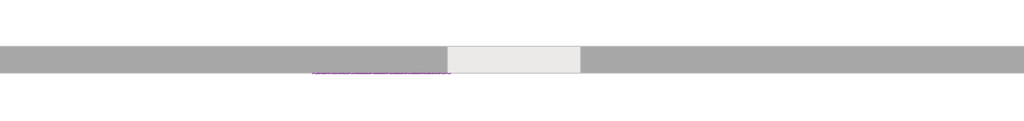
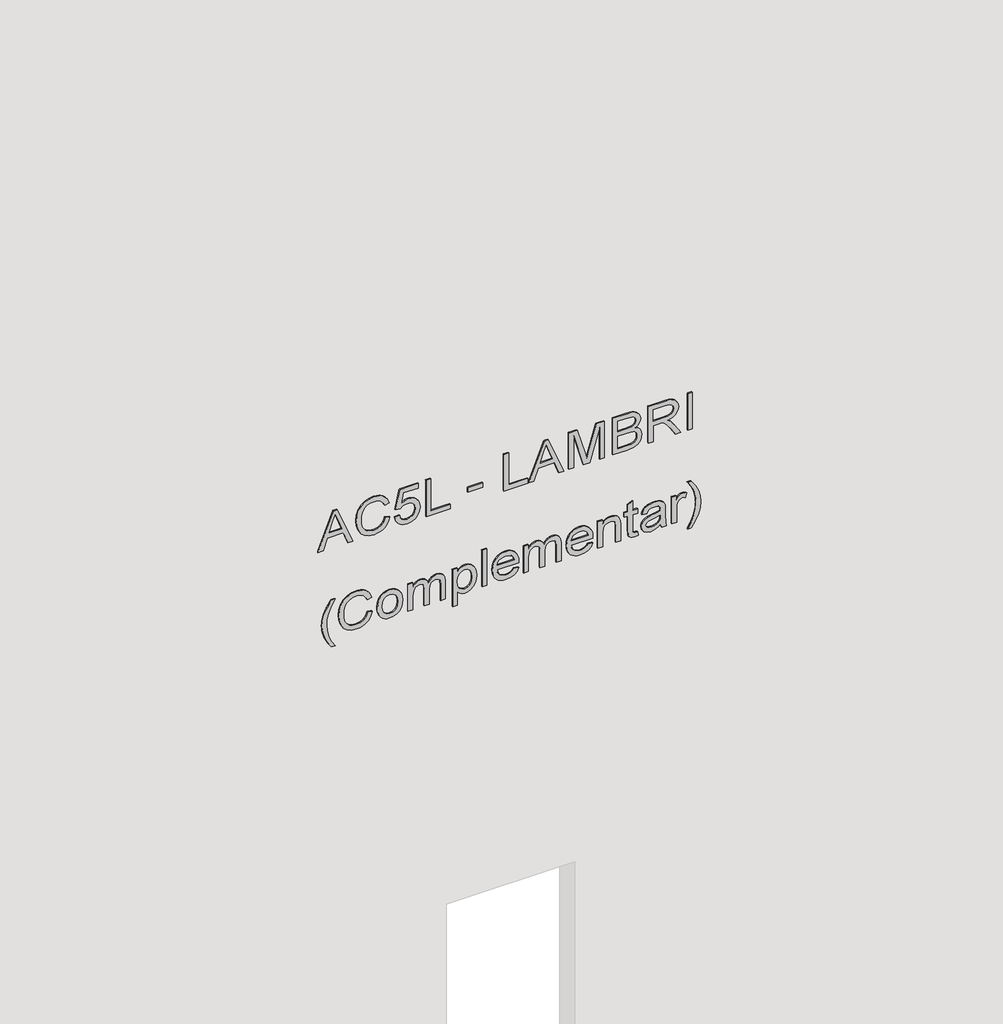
# One storey, part 11 of 11: 1 proxy.
"""IFC4 building model written with IfcOpenShell, lengths in millimetres."""

from ifc_helpers import new_model, si_unit, frame, origin, place, context, project, spatial, polyline, outline, extrude, element, save

model = new_model("IFC4")

# Units and contexts
model_context = context("Model", 3, world=origin())
ifc_project = project(units=[si_unit("LENGTHUNIT", "METRE", prefix="MILLI")], contexts=[model_context])

# Site, building, storey
site = spatial("IfcSite", under=ifc_project)
building = spatial("IfcBuilding", under=site)
storey = spatial("IfcBuildingStorey", under=building, Name="01 - Marelli - Planta Baixa - Painéis Lambri", Elevation=0.0)

# Proxy
placement = place(None, origin())
element("IfcBuildingElementProxy", 1, Name="300mm Arial", ObjectType="300mm Arial", at=placement, inside=storey, context=model_context, shape_type="SweptSolid", body=[
    extrude(outline(polyline([(5965.9244535, 67363.6853623), (5965.9244535, 67403.4901942), (6060.1022443, 67437.923949), (6060.1022443, 67562.0473341), (5965.9244535, 67596.5546653), (5965.9244535, 67636.3594972), (6267.293384, 67516.0620847), (6267.293384, 67483.9827748), (5965.9244535, 67363.6853623)]), holes=[polyline([(6097.7733606, 67451.756312), (6178.3395176, 67481.260448), (6229.6222677, 67500.0224297), (6171.8647944, 67521.1388563), (6097.7733606, 67548.2885475), (6097.7733606, 67451.756312)])]), frame((0.0, 8778.3159498, 0.0), z_axis=(0.0, 1.0, 0.0), x_axis=(0.0, 0.0, 1.0)), (0.0, 0.0, 1.0), 10.0),
    extrude(outline(polyline([(6073.0516905, 67888.5058167), (6040.7884396, 67876.3197256), (6017.5750857, 67856.5368713), (6003.5587816, 67830.3344762), (5998.8866803, 67798.8897626), (6002.3171799, 67771.9148153), (6012.6086787, 67746.9080367), (6029.8347531, 67726.0491276), (6054.0689796, 67711.5177888), (6084.1617268, 67702.9921235), (6118.9633635, 67700.1502351), (6147.3822477, 67702.5506651), (6174.9550032, 67709.7519552), (6199.3455795, 67722.8761454), (6218.2179258, 67743.0452758), (6230.3028494, 67769.6247499), (6234.3311572, 67801.9799714), (6230.6983225, 67830.0493676), (6219.7998184, 67852.8948395), (6200.9550632, 67870.7371163), (6173.4834752, 67883.7969271), (6182.4597959, 67921.4680434), (6220.278065, 67904.8305802), (6235.6003501, 67893.0284659), (6248.5314022, 67878.9040966), (6258.7999084, 67862.7241866), (6266.1345557, 67844.7554504), (6272.0022735, 67803.4514994), (6267.4681279, 67765.5964421), (6253.8656912, 67731.0523227), (6231.526057, 67701.9252658), (6200.7803193, 67680.3213956), (6162.8332915, 67666.939688), (6118.8897871, 67662.4791188), (6077.2271512, 67666.4246532), (6038.3236302, 67678.2612564), (6005.2326447, 67697.6486376), (5981.0076153, 67724.2465058), (5966.1635768, 67758.946975), (5961.215564, 67802.642159), (5962.8503396, 67825.0645666), (5967.7546665, 67845.6843524), (5975.9285445, 67864.5015165), (5987.3719739, 67881.5160587), (6001.9286046, 67896.3922869), (6019.4420868, 67908.7945087), (6039.9124206, 67918.722724), (6063.3396059, 67926.176933), (6073.0516905, 67888.5058167)])), frame((0.0, 8778.3159498, 0.0), z_axis=(0.0, 1.0, 0.0), x_axis=(0.0, 0.0, 1.0)), (0.0, 0.0, 1.0), 10.0),
    extrude(outline(polyline([(6045.9755757, 67963.8480493), (6011.4222593, 67973.0359021), (5996.9805917, 67981.7616032), (5984.4289179, 67993.2418207), (5974.2730756, 68007.0396948), (5967.0189025, 68022.7183655), (5961.215564, 68059.7180972), (5963.4734397, 68083.2073626), (5970.247067, 68104.0846658), (5981.5364457, 68122.3500069), (5997.3415759, 68138.0033858), (6012.7742256, 68148.3362713), (6029.5680387, 68155.7169039), (6067.239155, 68161.6214099), (6087.5002559, 68159.9820357), (6105.8299763, 68155.0639133), (6122.2283162, 68146.8670426), (6136.6952757, 68135.3914236), (6148.5088863, 68121.5291702), (6156.9471795, 68106.1723962), (6162.0101555, 68089.3211015), (6163.6978141, 68070.9752863), (6158.2531606, 68042.7771313), (6141.9192, 68015.8665634), (6224.9133781, 68031.9797948), (6224.9133781, 68147.4947413), (6262.5844944, 68147.4947413), (6262.5844944, 68001.5191656), (6107.1911397, 67968.5569388), (6102.4822501, 68006.2280551), (6119.4783983, 68027.3812698), (6124.389623, 68042.1793231), (6126.0266978, 68060.4538612), (6121.9248136, 68088.3485135), (6109.6191609, 68108.168156), (6090.2317797, 68120.0047592), (6064.8847102, 68123.9502936), (6037.9649452, 68119.7380447), (6016.9496863, 68107.1012982), (6003.4024318, 68086.8677885), (5998.8866803, 68059.86525), (6002.1332389, 68037.6635716), (6011.8729147, 68020.5018765), (6028.0689196, 68008.4353471), (6050.6844652, 68001.5191656), (6045.9755757, 67963.8480493)])), frame((0.0, 8778.3159498, 0.0), z_axis=(0.0, 1.0, 0.0), x_axis=(0.0, 0.0, 1.0)), (0.0, 0.0, 1.0), 10.0),
    extrude(outline(polyline([(5965.9244535, 68208.7103053), (5965.9244535, 68397.0658868), (6003.5955698, 68397.0658868), (6003.5955698, 68246.3814216), (6267.293384, 68246.3814216), (6267.293384, 68208.7103053), (5965.9244535, 68208.7103053)])), frame((0.0, 8778.3159498, 0.0), z_axis=(0.0, 1.0, 0.0), x_axis=(0.0, 0.0, 1.0)), (0.0, 0.0, 1.0), 10.0),
    extrude(outline(polyline([(68651.3459219, 8778.3159498), (68533.6236834, 8778.3159498), (68533.6236834, 8788.3159498), (68651.3459219, 8788.3159498), (68651.3459219, 8778.3159498)])), frame((0.0, 0.0, 6055.3933548), z_axis=(0.0, 0.0, 1.0), x_axis=(1.0, 0.0, 0.0)), (0.0, 0.0, 1.0), 37.6711163),
    extrude(outline(polyline([(5965.9244535, 68816.1570557), (5965.9244535, 69004.5126372), (6003.5955698, 69004.5126372), (6003.5955698, 68853.828172), (6267.293384, 68853.828172), (6267.293384, 68816.1570557), (5965.9244535, 68816.1570557)])), frame((0.0, 8778.3159498, 0.0), z_axis=(0.0, 1.0, 0.0), x_axis=(0.0, 0.0, 1.0)), (0.0, 0.0, 1.0), 10.0),
    extrude(outline(polyline([(5965.9244535, 69011.7967007), (5965.9244535, 69051.6015326), (6060.1022443, 69086.0352874), (6060.1022443, 69210.1586725), (5965.9244535, 69244.6660037), (5965.9244535, 69284.4708356), (6267.293384, 69164.1734231), (6267.293384, 69132.0941132), (5965.9244535, 69011.7967007)]), holes=[polyline([(6097.7733606, 69099.8676504), (6178.3395176, 69129.3717864), (6229.6222677, 69148.1337681), (6171.8647944, 69169.2501947), (6097.7733606, 69196.3998859), (6097.7733606, 69099.8676504)])]), frame((0.0, 8778.3159498, 0.0), z_axis=(0.0, 1.0, 0.0), x_axis=(0.0, 0.0, 1.0)), (0.0, 0.0, 1.0), 10.0),
    extrude(outline(polyline([(5965.9244535, 69324.7171258), (5965.9244535, 69362.3882421), (6229.6222677, 69362.3882421), (5965.9244535, 69438.0983567), (5965.9244535, 69489.1603777), (6229.6222677, 69564.8704923), (5965.9244535, 69564.8704923), (5965.9244535, 69602.5416086), (6267.293384, 69602.5416086), (6267.293384, 69537.720801), (6058.5571399, 69477.0938482), (6010.5117514, 69463.6293672), (6054.87832, 69451.1949558), (6267.293384, 69389.5379334), (6267.293384, 69324.7171258), (5965.9244535, 69324.7171258)])), frame((0.0, 8778.3159498, 0.0), z_axis=(0.0, 1.0, 0.0), x_axis=(0.0, 0.0, 1.0)), (0.0, 0.0, 1.0), 10.0),
    extrude(outline(polyline([(5965.9244535, 69668.4660621), (5965.9244535, 69782.583057), (5971.1115897, 69830.885963), (5977.5311305, 69848.9213778), (5986.4154807, 69863.6642488), (5998.6843452, 69875.7031871), (6015.2574291, 69885.6268039), (6034.7459778, 69892.2762709), (6055.7612368, 69894.49276), (6080.9795475, 69891.2462013), (6102.6294029, 69881.5065255), (6119.5887629, 69865.733585), (6130.7355874, 69844.3872322), (6142.4802201, 69862.2571001), (6157.407032, 69874.958226), (6174.4675596, 69882.5457922), (6192.613339, 69885.0749809), (6212.3318139, 69882.0675456), (6231.1673721, 69873.0452396), (6247.1794359, 69858.7162359), (6258.4274279, 69839.7887073), (6265.076895, 69815.0946283), (6267.293384, 69783.4659738), (6267.293384, 69668.4660621), (5965.9244535, 69668.4660621)]), holes=[polyline([(6144.862256, 69706.1371784), (6229.6222677, 69706.1371784), (6229.6222677, 69769.7071872), (6225.6859303, 69818.1204578), (6220.084927, 69830.6100515), (6211.1545915, 69839.8254955), (6199.7134615, 69845.5092723), (6186.5800742, 69847.4038646), (6173.0512139, 69845.3713166), (6162.0423452, 69839.2736725), (6153.6822268, 69829.1661147), (6148.0996175, 69815.1038254), (6144.862256, 69774.9311115), (6144.862256, 69706.1371784)]), polyline([(6003.5955698, 69706.1371784), (6107.1911397, 69706.1371784), (6107.1911397, 69779.7135775), (6105.9311438, 69806.541372), (6102.1511563, 69826.2506499), (6095.262566, 69840.1657863), (6084.6767616, 69849.6111565), (6071.1387042, 69855.0190219), (6055.3933548, 69856.8216436), (6041.8369032, 69855.2857363), (6030.0094971, 69850.6780143), (6013.2708663, 69835.0062413), (6005.0670978, 69811.351429), (6003.5955698, 69783.3923974), (6003.5955698, 69706.1371784)])]), frame((0.0, 8778.3159498, 0.0), z_axis=(0.0, 1.0, 0.0), x_axis=(0.0, 0.0, 1.0)), (0.0, 0.0, 1.0), 10.0),
    extrude(outline(polyline([(5965.9244535, 69946.2905449), (5965.9244535, 69983.9616612), (6097.7733606, 69983.9616612), (6097.7733606, 70029.4318758), (6096.4489854, 70051.2840663), (6089.2752865, 70069.1999195), (6069.7407526, 70089.1023354), (6028.3908163, 70117.429249), (5965.9244535, 70156.6454697), (5965.9244535, 70200.4234271), (6047.5942565, 70150.1707466), (6086.3690188, 70119.636541), (6102.4822501, 70098.2258089), (6112.4702463, 70135.3359051), (6120.4854753, 70149.7177919), (6130.5148582, 70161.3175711), (6155.1261637, 70176.6306591), (6184.8142407, 70181.7350218), (6208.6805851, 70178.6540101), (6230.3948199, 70169.410975), (6247.9060028, 70155.0083948), (6259.1631919, 70136.4487482), (6265.260836, 70111.0556935), (6267.293384, 70076.1528892), (6267.293384, 69946.2905449), (5965.9244535, 69946.2905449)]), holes=[polyline([(6135.4444769, 69983.9616612), (6229.6222677, 69983.9616612), (6229.6222677, 70077.77157), (6226.366512, 70107.5792086), (6216.599245, 70128.1346151), (6201.7919947, 70140.0815829), (6183.4162891, 70144.0639055), (6170.1081579, 70141.9761752), (6157.8484904, 70135.7129842), (6147.7133415, 70125.4306824), (6140.7787658, 70111.2856197), (6136.7780491, 70092.4960468), (6135.4444769, 70068.2802145), (6135.4444769, 69983.9616612)])]), frame((0.0, 8778.3159498, 0.0), z_axis=(0.0, 1.0, 0.0), x_axis=(0.0, 0.0, 1.0)), (0.0, 0.0, 1.0), 10.0),
    extrude(outline(polyline([(70290.0394812, 8778.3159498), (70252.3683649, 8778.3159498), (70252.3683649, 8788.3159498), (70290.0394812, 8788.3159498), (70290.0394812, 8778.3159498)])), frame((0.0, 0.0, 5965.9244535), z_axis=(0.0, 0.0, 1.0), x_axis=(1.0, 0.0, 0.0)), (0.0, 0.0, 1.0), 301.3689304),
    extrude(outline(polyline([(5149.3155348, 67469.4146478), (5149.3155348, 67497.667985), (5197.5540614, 67468.8260366), (5245.8109821, 67448.2246448), (5294.0862969, 67435.8638098), (5342.3800058, 67431.7435314), (5380.2534572, 67434.1163703), (5417.9429677, 67441.2348869), (5475.7740173, 67462.4248898), (5535.4444769, 67497.667985), (5535.4444769, 67469.4146478), (5484.934279, 67434.7233756), (5434.2033518, 67410.4063757), (5389.4137189, 67398.1559053), (5342.600735, 67394.0724151), (5289.2210575, 67399.5354628), (5237.68079, 67415.9246057), (5190.2791949, 67440.2232114), (5149.3155348, 67469.4146478)])), frame((0.0, 8778.3159498, 0.0), z_axis=(0.0, 1.0, 0.0), x_axis=(0.0, 0.0, 1.0)), (0.0, 0.0, 1.0), 10.0),
    extrude(outline(polyline([(5341.2027835, 67751.94802), (5308.9395325, 67739.761929), (5285.7261786, 67719.9790747), (5271.7098746, 67693.7766796), (5267.0377732, 67662.331966), (5270.4682728, 67635.3570187), (5280.7597717, 67610.3502401), (5297.9858461, 67589.491331), (5322.2200725, 67574.9599922), (5352.3128197, 67566.4343269), (5387.1144565, 67563.5924385), (5415.5333406, 67565.9928685), (5443.1060961, 67573.1941586), (5467.4966724, 67586.3183488), (5486.3690188, 67606.4874792), (5498.4539423, 67633.0669533), (5502.4822501, 67665.4221748), (5498.8494154, 67693.491571), (5487.9509113, 67716.3370429), (5469.1061561, 67734.1793197), (5441.6345681, 67747.2391305), (5450.6108888, 67784.9102468), (5488.4291579, 67768.2727836), (5503.751443, 67756.4706693), (5516.6824952, 67742.3463), (5526.9510013, 67726.16639), (5534.2856486, 67708.1976538), (5540.1533665, 67666.8937028), (5535.6192209, 67629.0386455), (5522.0167841, 67594.4945261), (5499.6771499, 67565.3674691), (5468.9314122, 67543.763599), (5430.9843844, 67530.3818914), (5387.0408801, 67525.9213222), (5345.3782441, 67529.8668566), (5306.4747231, 67541.7034598), (5273.3837376, 67561.0908409), (5249.1587083, 67587.6887092), (5234.3146698, 67622.3891784), (5229.3666569, 67666.0843624), (5231.0014325, 67688.50677), (5235.9057594, 67709.1265558), (5244.0796375, 67727.9437199), (5255.5230668, 67744.9582621), (5270.0796975, 67759.8344903), (5287.5931797, 67772.2367121), (5308.0635135, 67782.1649274), (5331.4906988, 67789.6191364), (5341.2027835, 67751.94802)])), frame((0.0, 8778.3159498, 0.0), z_axis=(0.0, 1.0, 0.0), x_axis=(0.0, 0.0, 1.0)), (0.0, 0.0, 1.0), 10.0),
    extrude(outline(polyline([(5344.7344506, 67827.2902527), (5318.4124939, 67828.9986047), (5295.3646869, 67834.1236607), (5275.5910296, 67842.6654208), (5259.0915221, 67854.6238849), (5246.0868936, 67869.350661), (5236.7978732, 67886.1973571), (5231.224461, 67905.1639733), (5229.3666569, 67926.2505094), (5232.7419742, 67952.8391806), (5242.8679261, 67977.2757421), (5259.1007192, 67997.8495427), (5280.7965599, 68012.849931), (5309.767267, 68022.0101927), (5347.8246594, 68025.0636133), (5372.7049786, 68023.3368672), (5394.7388108, 68018.1566288), (5413.9261561, 68009.5228982), (5430.2670145, 67997.4356754), (5443.3199275, 67982.6261259), (5452.6434368, 67965.825415), (5458.2375424, 67947.0335428), (5460.1022443, 67926.2505094), (5458.5709355, 67907.4241483), (5453.9770091, 67890.0877092), (5446.3204651, 67874.2411923), (5435.6013034, 67859.8845974), (5418.830483, 67845.6245716), (5398.095734, 67835.4388389), (5373.3970566, 67829.3273992), (5344.7344506, 67827.2902527)]), holes=[polyline([(5344.808027, 67864.961369), (5378.8830968, 67869.3207706), (5403.1173232, 67882.3989755), (5417.6026768, 67902.0806623), (5422.431128, 67926.2505094), (5417.5842827, 67950.1720361), (5403.0437468, 67969.8445258), (5379.0854319, 67983.0055042), (5345.9852494, 67987.392497), (5311.1468245, 67983.0330953), (5286.535519, 67969.9548904), (5271.9122097, 67950.3099918), (5267.0377732, 67926.2505094), (5271.8846185, 67902.0806623), (5286.4251544, 67882.3989755), (5310.7145631, 67869.3207706), (5344.808027, 67864.961369)])]), frame((0.0, 8778.3159498, 0.0), z_axis=(0.0, 1.0, 0.0), x_axis=(0.0, 0.0, 1.0)), (0.0, 0.0, 1.0), 10.0),
    extrude(outline(polyline([(5234.0755465, 68067.4436191), (5234.0755465, 68105.1147354), (5345.6909438, 68105.1147354), (5371.6082304, 68106.5494752), (5390.6461236, 68110.8536945), (5404.368122, 68118.3584872), (5414.3377241, 68129.3949471), (5420.407777, 68142.7674576), (5422.431128, 68157.2804023), (5419.3961015, 68174.359324), (5410.2910222, 68185.8648334), (5395.0974958, 68192.4039358), (5373.7971282, 68194.5836366), (5234.0755465, 68194.5836366), (5234.0755465, 68232.2547529), (5359.008272, 68232.2547529), (5387.7214617, 68235.94277), (5407.3479662, 68247.006821), (5418.6603375, 68263.6442842), (5422.431128, 68284.0525379), (5420.9596, 68295.6132296), (5416.5450161, 68305.5736346), (5409.7300021, 68313.3175506), (5401.0571841, 68318.2287752), (5369.6032735, 68321.7236542), (5234.0755465, 68321.7236542), (5234.0755465, 68359.3947705), (5385.7900813, 68359.3947705), (5418.7615051, 68355.0813541), (5441.8920855, 68342.1411049), (5455.5497046, 68321.1994223), (5460.1022443, 68292.8817058), (5457.366122, 68273.3563689), (5449.1577549, 68255.7624124), (5435.4771432, 68240.0998365), (5416.3242869, 68226.368641), (5434.7643719, 68218.1648725), (5448.5875379, 68205.6200965), (5457.2235677, 68188.8262834), (5460.1022443, 68167.8754038), (5457.27875, 68148.3224757), (5448.808267, 68131.0136279), (5435.702471, 68116.4455009), (5418.9730372, 68105.1147354), (5455.3933548, 68105.1147354), (5455.3933548, 68067.4436191), (5234.0755465, 68067.4436191)])), frame((0.0, 8778.3159498, 0.0), z_axis=(0.0, 1.0, 0.0), x_axis=(0.0, 0.0, 1.0)), (0.0, 0.0, 1.0), 10.0),
    extrude(outline(polyline([(5149.3155348, 68415.9014449), (5149.3155348, 68453.5725612), (5263.5061061, 68453.5725612), (5249.9956398, 68464.213548), (5239.0419534, 68477.4481027), (5231.785481, 68492.9083436), (5229.3666569, 68510.2263885), (5232.9810975, 68534.6445559), (5243.8244193, 68557.8671069), (5261.4459669, 68577.806311), (5285.3950848, 68592.374438), (5314.2094421, 68601.2863794), (5346.4267078, 68604.2570265), (5376.7217901, 68601.6266702), (5404.4784866, 68593.7356014), (5427.9861461, 68580.6757906), (5445.5341173, 68562.5392082), (5456.4602125, 68540.2639534), (5460.1022443, 68514.7881252), (5457.4994792, 68495.6582615), (5449.6911838, 68479.6186065), (5436.6773583, 68465.8598199), (5418.4580024, 68453.5725612), (5455.3933548, 68453.5725612), (5455.3933548, 68415.9014449), (5149.3155348, 68415.9014449)]), holes=[polyline([(5342.968617, 68453.5725612), (5377.1356573, 68457.9227658), (5402.0872537, 68470.9733796), (5417.3451594, 68489.670982), (5422.431128, 68510.9621525), (5417.6486621, 68532.1705495), (5403.3012642, 68550.1783732), (5379.3521464, 68562.4840259), (5345.7645202, 68566.5859102), (5310.7237602, 68562.3828584), (5286.2412134, 68549.773703), (5271.8386333, 68531.2784357), (5267.0377732, 68509.4170481), (5271.6730864, 68487.9051484), (5285.5790258, 68469.8697336), (5309.1970499, 68457.6468543), (5342.968617, 68453.5725612)])]), frame((0.0, 8778.3159498, 0.0), z_axis=(0.0, 1.0, 0.0), x_axis=(0.0, 0.0, 1.0)), (0.0, 0.0, 1.0), 10.0),
    extrude(outline(polyline([(68684.3081486, 8778.3159498), (68646.6370323, 8778.3159498), (68646.6370323, 8788.3159498), (68684.3081486, 8788.3159498), (68684.3081486, 8778.3159498)])), frame((0.0, 0.0, 5234.0755465), z_axis=(0.0, 0.0, 1.0), x_axis=(1.0, 0.0, 0.0)), (0.0, 0.0, 1.0), 301.3689304),
    extrude(outline(polyline([(5300.0, 68895.7667195), (5285.1191733, 68885.2085062), (5274.9104479, 68871.4865078), (5269.0059419, 68854.6007242), (5267.0377732, 68834.5511555), (5271.2868103, 68807.8889079), (5284.0339214, 68786.0275203), (5304.7640718, 68770.8799791), (5332.9622268, 68764.3592708), (5332.9622268, 68933.658565), (5343.1157698, 68933.8792942), (5369.3687487, 68932.0927672), (5392.5039277, 68926.7331864), (5412.5213067, 68917.8005517), (5429.4208859, 68905.2948631), (5442.8439802, 68889.9748773), (5452.4319047, 68872.5993508), (5458.1846594, 68853.1682837), (5460.1022443, 68831.6816759), (5458.1800609, 68809.4799975), (5452.4135106, 68789.4488228), (5442.8025935, 68771.588152), (5429.3473095, 68755.8979849), (5412.4109422, 68743.1186841), (5392.3567749, 68733.9906121), (5369.1848077, 68728.5137689), (5342.8950406, 68726.6881545), (5317.467497, 68728.4953748), (5295.0427901, 68733.9170357), (5275.62092, 68742.9531372), (5259.2018867, 68755.6036793), (5246.1489737, 68771.3352331), (5236.8254644, 68789.6143697), (5231.2313588, 68810.4410892), (5229.3666569, 68833.8153915), (5233.6892704, 68869.4723538), (5246.6571107, 68898.1579524), (5267.4608375, 68919.3939406), (5295.2911105, 68932.7020718), (5300.0, 68895.7667195)]), holes=[polyline([(5370.6333431, 68764.3592708), (5391.8693312, 68770.5488853), (5408.3412476, 68785.1446035), (5418.9086579, 68806.1414684), (5422.431128, 68831.5345231), (5418.0165441, 68859.1624609), (5404.7727922, 68881.125016), (5390.535759, 68891.1130122), (5370.6333431, 68896.2081778), (5370.6333431, 68764.3592708)])]), frame((0.0, 8778.3159498, 0.0), z_axis=(0.0, 1.0, 0.0), x_axis=(0.0, 0.0, 1.0)), (0.0, 0.0, 1.0), 10.0),
    extrude(outline(polyline([(5234.0755465, 68971.5504105), (5234.0755465, 69009.2215268), (5345.6909438, 69009.2215268), (5371.6082304, 69010.6562665), (5390.6461236, 69014.9604859), (5404.368122, 69022.4652786), (5414.3377241, 69033.5017384), (5420.407777, 69046.874249), (5422.431128, 69061.3871937), (5419.3961015, 69078.4661153), (5410.2910222, 69089.9716247), (5395.0974958, 69096.5107272), (5373.7971282, 69098.690428), (5234.0755465, 69098.690428), (5234.0755465, 69136.3615443), (5359.008272, 69136.3615443), (5387.7214617, 69140.0495613), (5407.3479662, 69151.1136123), (5418.6603375, 69167.7510755), (5422.431128, 69188.1593292), (5420.9596, 69199.7200209), (5416.5450161, 69209.6804259), (5409.7300021, 69217.4243419), (5401.0571841, 69222.3355666), (5369.6032735, 69225.8304455), (5234.0755465, 69225.8304455), (5234.0755465, 69263.5015618), (5385.7900813, 69263.5015618), (5418.7615051, 69259.1881454), (5441.8920855, 69246.2478963), (5455.5497046, 69225.3062137), (5460.1022443, 69196.9884971), (5457.366122, 69177.4631602), (5449.1577549, 69159.8692038), (5435.4771432, 69144.2066278), (5416.3242869, 69130.4754324), (5434.7643719, 69122.2716639), (5448.5875379, 69109.7268878), (5457.2235677, 69092.9330748), (5460.1022443, 69071.9821951), (5457.27875, 69052.4292671), (5448.808267, 69035.1204192), (5435.702471, 69020.5522922), (5418.9730372, 69009.2215268), (5455.3933548, 69009.2215268), (5455.3933548, 68971.5504105), (5234.0755465, 68971.5504105)])), frame((0.0, 8778.3159498, 0.0), z_axis=(0.0, 1.0, 0.0), x_axis=(0.0, 0.0, 1.0)), (0.0, 0.0, 1.0), 10.0),
    extrude(outline(polyline([(5300.0, 69474.9601327), (5285.1191733, 69464.4019194), (5274.9104479, 69450.679921), (5269.0059419, 69433.7941374), (5267.0377732, 69413.7445687), (5271.2868103, 69387.0823211), (5284.0339214, 69365.2209335), (5304.7640718, 69350.0733923), (5332.9622268, 69343.552684), (5332.9622268, 69512.8519782), (5343.1157698, 69513.0727074), (5369.3687487, 69511.2861804), (5392.5039277, 69505.9265996), (5412.5213067, 69496.9939649), (5429.4208859, 69484.4882763), (5442.8439802, 69469.1682905), (5452.4319047, 69451.792764), (5458.1846594, 69432.3616969), (5460.1022443, 69410.8750891), (5458.1800609, 69388.6734107), (5452.4135106, 69368.6422361), (5442.8025935, 69350.7815652), (5429.3473095, 69335.0913981), (5412.4109422, 69322.3120973), (5392.3567749, 69313.1840253), (5369.1848077, 69307.7071821), (5342.8950406, 69305.8815677), (5317.467497, 69307.688788), (5295.0427901, 69313.1104489), (5275.62092, 69322.1465504), (5259.2018867, 69334.7970925), (5246.1489737, 69350.5286463), (5236.8254644, 69368.8077829), (5231.2313588, 69389.6345024), (5229.3666569, 69413.0088047), (5233.6892704, 69448.6657671), (5246.6571107, 69477.3513656), (5267.4608375, 69498.5873538), (5295.2911105, 69511.895485), (5300.0, 69474.9601327)]), holes=[polyline([(5370.6333431, 69343.552684), (5391.8693312, 69349.7422985), (5408.3412476, 69364.3380167), (5418.9086579, 69385.3348816), (5422.431128, 69410.7279363), (5418.0165441, 69438.3558741), (5404.7727922, 69460.3184292), (5390.535759, 69470.3064254), (5370.6333431, 69475.4015911), (5370.6333431, 69343.552684)])]), frame((0.0, 8778.3159498, 0.0), z_axis=(0.0, 1.0, 0.0), x_axis=(0.0, 0.0, 1.0)), (0.0, 0.0, 1.0), 10.0),
    extrude(outline(polyline([(5234.0755465, 69550.7438237), (5234.0755465, 69588.41494), (5351.5034793, 69588.41494), (5386.2131456, 69592.7099623), (5398.5877762, 69598.0787401), (5407.6422718, 69605.5950291), (5418.7339139, 69624.4029961), (5422.431128, 69646.4667188), (5420.7848561, 69660.3634612), (5415.8460403, 69672.3288231), (5408.1481095, 69681.6638287), (5398.2244927, 69687.6695023), (5364.8943839, 69692.0105098), (5234.0755465, 69692.0105098), (5234.0755465, 69729.6816261), (5369.9711555, 69729.6816261), (5406.391473, 69727.6950633), (5434.0929872, 69716.4010861), (5444.6328064, 69706.3027253), (5452.9285454, 69692.1208744), (5458.3088196, 69675.1155292), (5460.1022443, 69656.5466855), (5457.8765582, 69635.5682147), (5451.1995, 69617.2201002), (5440.0710697, 69601.5023419), (5424.4912672, 69588.41494), (5455.3933548, 69588.41494), (5455.3933548, 69550.7438237), (5234.0755465, 69550.7438237)])), frame((0.0, 8778.3159498, 0.0), z_axis=(0.0, 1.0, 0.0), x_axis=(0.0, 0.0, 1.0)), (0.0, 0.0, 1.0), 10.0),
    extrude(outline(polyline([(5265.4926689, 69861.5305332), (5267.0377732, 69845.1229962), (5269.576159, 69832.2839146), (5276.4555523, 69825.8459797), (5295.8797217, 69823.8594169), (5417.7222385, 69823.8594169), (5417.7222385, 69861.5305332), (5455.3933548, 69861.5305332), (5455.3933548, 69823.8594169), (5531.3241986, 69823.8594169), (5509.1777025, 69786.1883006), (5455.3933548, 69786.1883006), (5455.3933548, 69757.9349633), (5417.7222385, 69757.9349633), (5417.7222385, 69786.1883006), (5294.7760757, 69786.1883006), (5267.7919313, 69787.3287348), (5252.0281878, 69790.7500373), (5242.849532, 69796.967243), (5235.6206508, 69806.4953867), (5230.9301554, 69819.9782618), (5229.3666569, 69838.0596619), (5232.9719005, 69866.2394227), (5265.4926689, 69861.5305332)])), frame((0.0, 8778.3159498, 0.0), z_axis=(0.0, 1.0, 0.0), x_axis=(0.0, 0.0, 1.0)), (0.0, 0.0, 1.0), 10.0),
    extrude(outline(polyline([(5262.3288837, 70040.4683356), (5234.0755465, 70049.8861147), (5234.0755465, 70087.557231), (5265.7501862, 70080.0524383), (5331.1963932, 70078.1394519), (5378.0645594, 70078.1394519), (5411.0267861, 70076.300042), (5425.1442577, 70071.7566993), (5436.5945848, 70064.7485473), (5445.856014, 70054.181137), (5453.406792, 70038.9600195), (5458.4283812, 70018.772495), (5460.1022443, 69993.3058639), (5458.207652, 69966.7539809), (5452.5238752, 69943.6050063), (5443.3452194, 69924.6774777), (5430.9659903, 69910.7899323), (5414.7791825, 69901.0318624), (5394.1777908, 69894.49276), (5389.4689012, 69932.1638763), (5405.1314772, 69939.6502749), (5415.1838527, 69950.3372468), (5420.6193092, 69966.0090198), (5422.431128, 69988.4498215), (5419.7088012, 70012.693245), (5411.5418209, 70030.0940634), (5400.5421493, 70037.8747676), (5383.7299421, 70040.4683356), (5375.3422326, 70040.2476064), (5368.3524747, 70013.429009), (5362.3927864, 69974.9117641), (5356.7274037, 69942.3174193), (5344.3665686, 69915.9402803), (5334.8752131, 69905.3360818), (5322.7351073, 69896.9943575), (5308.5532564, 69891.5864922), (5292.9366657, 69889.7838704), (5267.6079903, 69894.5571393), (5247.2457219, 69908.876946), (5233.8364232, 69932.0994969), (5229.3666569, 69963.5809987), (5231.224461, 69984.4491048), (5236.7978732, 70003.9376535), (5246.896234, 70022.469709), (5262.3288837, 70040.4683356)]), holes=[polyline([(5337.6711163, 70040.4683356), (5327.0025384, 70040.2476064), (5310.0799667, 70038.7576844), (5297.8662844, 70034.2879181), (5286.0112871, 70024.2079515), (5276.0508821, 70009.7134008), (5269.2910505, 69991.8343359), (5267.0377732, 69971.6008261), (5269.0795183, 69952.5169476), (5275.2047535, 69938.6753876), (5284.3834093, 69930.2600869), (5295.5854161, 69927.4549867), (5310.0799667, 69932.6053347), (5320.0127805, 69947.2838263), (5326.1196217, 69979.69423), (5337.6711163, 70040.4683356)])]), frame((0.0, 8778.3159498, 0.0), z_axis=(0.0, 1.0, 0.0), x_axis=(0.0, 0.0, 1.0)), (0.0, 0.0, 1.0), 10.0),
    extrude(outline(polyline([(5234.0755465, 70129.9372369), (5234.0755465, 70167.6083532), (5350.3998333, 70167.6083532), (5373.3556698, 70169.1350635), (5394.39852, 70173.7151943), (5406.1339556, 70179.1690449), (5414.9999117, 70187.2900399), (5420.5733239, 70197.3424154), (5422.431128, 70208.5904074), (5420.4997475, 70221.8341593), (5414.7056061, 70235.0779111), (5448.4771733, 70247.6594753), (5457.1959765, 70228.603188), (5460.1022443, 70209.8412062), (5458.2812284, 70197.5539476), (5452.8181808, 70186.2967585), (5441.6345681, 70175.0763577), (5422.6518572, 70162.8994636), (5455.3933548, 70162.8994636), (5455.3933548, 70129.9372369), (5234.0755465, 70129.9372369)])), frame((0.0, 8778.3159498, 0.0), z_axis=(0.0, 1.0, 0.0), x_axis=(0.0, 0.0, 1.0)), (0.0, 0.0, 1.0), 10.0),
    extrude(outline(polyline([(5149.3155348, 70280.6217021), (5190.2791949, 70309.6751827), (5237.68079, 70334.0013796), (5289.2210575, 70350.4732959), (5342.600735, 70355.9639347), (5389.4137189, 70351.8804446), (5434.2033518, 70339.6299741), (5484.934279, 70315.3129742), (5535.4444769, 70280.6217021), (5535.4444769, 70252.3683649), (5475.1854061, 70287.8321892), (5446.8400984, 70299.8067481), (5417.2807801, 70308.8014629), (5379.9775458, 70315.9199795), (5342.3800058, 70318.2928184), (5294.0862969, 70314.1725401), (5245.8109821, 70301.811705), (5197.5540614, 70281.2103133), (5149.3155348, 70252.3683649), (5149.3155348, 70280.6217021)])), frame((0.0, 8778.3159498, 0.0), z_axis=(0.0, 1.0, 0.0), x_axis=(0.0, 0.0, 1.0)), (0.0, 0.0, 1.0), 10.0),
])

save(model, "model.ifc")
